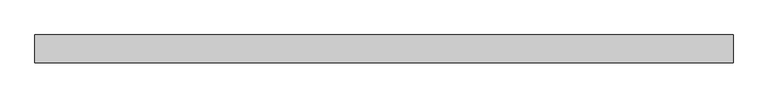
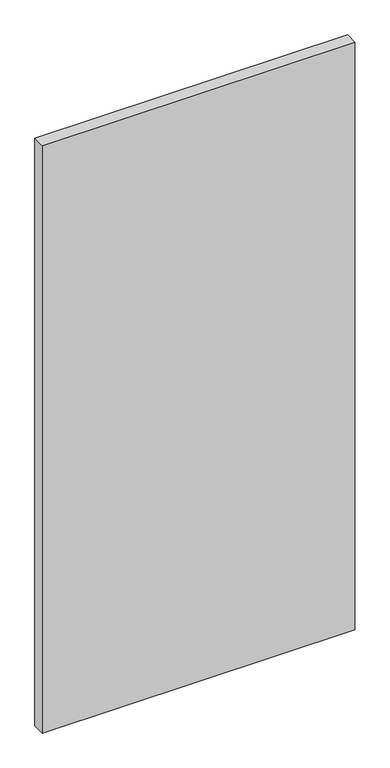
"""IFC4 building model written with IfcOpenShell, lengths in millimetres: plate geometry, Panneau système : Vitre 4cm."""

import ifcopenshell
import ifcopenshell.guid

model = None  # the IFC model being written
_history = None  # IfcOwnerHistory: only IFC2X3 demands one
_inside = {}  # id of a spatial element -> (the spatial element, [elements in it])
_under = {}  # id of a project, library or spatial element -> (it, [spatial elements below it])
_declared = {}  # id of a project -> (the project, [libraries it declares])
_typed = {}  # id of a type object -> (the type object, [elements of that type])
_made_of = {}  # id of a material, layer set ... -> (it, [elements and type objects made of it])


def new_model(schema):
    """Start an empty IFC model of exactly this schema.

    Asked for "IFC4X3", IfcOpenShell would pick the latest addendum, in which some entities
    have other attributes; the version numbers below select the first issue.
    IFC2X3 requires an IfcOwnerHistory on every rooted entity: one is made here for all.
    """
    global model, _history
    if schema == "IFC4X3":
        model = ifcopenshell.file(schema_version=(4, 3, 0, 0))
    else:
        model = ifcopenshell.file(schema=schema)
    _inside.clear()
    _under.clear()
    _declared.clear()
    _typed.clear()
    _made_of.clear()
    _history = None
    if model.schema == "IFC2X3":
        org = make("IfcOrganization", Name="unknown")
        user = make(
            "IfcPersonAndOrganization",
            ThePerson=make("IfcPerson", FamilyName="unknown"),
            TheOrganization=org,
        )
        app = make(
            "IfcApplication",
            ApplicationDeveloper=org,
            Version="unknown",
            ApplicationFullName="unknown",
            ApplicationIdentifier="unknown",
        )
        _history = make(
            "IfcOwnerHistory",
            OwningUser=user,
            OwningApplication=app,
            ChangeAction="ADDED",
            CreationDate=0,
        )
    return model


def make(cls, **values):
    """One entity of the class cls with the attributes given. An attribute that is None is left unset."""
    return model.create_entity(
        cls, **{name: value for name, value in values.items() if value is not None}
    )


def rooted(cls, **values):
    """An entity with a GlobalId (a new one), such as an element, a storey or a relation."""
    return make(cls, GlobalId=ifcopenshell.guid.new(), OwnerHistory=_history, **values)


def si_unit(unit_type, name, prefix=None):
    """IfcSIUnit, for example si_unit("LENGTHUNIT", "METRE", prefix="MILLI")."""
    return make("IfcSIUnit", UnitType=unit_type, Prefix=prefix, Name=name)


def assignment(units):
    """IfcUnitAssignment: the units of a project."""
    return None if units is None else make("IfcUnitAssignment", Units=units)


def point(xyz):
    """IfcCartesianPoint."""
    return None if xyz is None else make("IfcCartesianPoint", Coordinates=xyz)


def direction(xyz):
    """IfcDirection."""
    return None if xyz is None else make("IfcDirection", DirectionRatios=xyz)


def frame(location, z_axis=None, x_axis=None):
    """IfcAxis2Placement3D, a coordinate frame: its origin and axes. An axis left out is left unset."""
    return make(
        "IfcAxis2Placement3D",
        Location=point(location),
        Axis=direction(z_axis),
        RefDirection=direction(x_axis),
    )


def origin():
    """The frame at (0, 0, 0) with its axes left unset."""
    return frame((0.0, 0.0, 0.0))


def origin_with_axes():
    """The frame at (0, 0, 0) with the z axis (0, 0, 1) and the x axis (1, 0, 0) written out."""
    return frame((0.0, 0.0, 0.0), z_axis=(0.0, 0.0, 1.0), x_axis=(1.0, 0.0, 0.0))


def place(relative_to, where):
    """IfcLocalPlacement: puts the frame where relative to a parent placement (None: the world)."""
    return make(
        "IfcLocalPlacement", PlacementRelTo=relative_to, RelativePlacement=where
    )


def context(
    kind, dimensions, precision=None, world=None, true_north=None, identifier=None
):
    """IfcGeometricRepresentationContext, for example the 3D "Model" context."""
    return make(
        "IfcGeometricRepresentationContext",
        ContextIdentifier=identifier,
        ContextType=kind,
        CoordinateSpaceDimension=dimensions,
        Precision=precision,
        WorldCoordinateSystem=world,
        TrueNorth=true_north,
    )


def project(units=None, contexts=None):
    """IfcProject with its units and contexts."""
    return rooted(
        "IfcProject",
        Name="project",
        RepresentationContexts=contexts,
        UnitsInContext=assignment(units),
    )


def spatial(cls, under=None, at=None, **own):
    """A site, building, storey or space (cls), placed at a placement, below another one or the project."""
    s = rooted(cls, ObjectPlacement=at, **own)
    if under is not None:
        _under.setdefault(under.id(), (under, []))[1].append(s)
    return s


def polyline(points):
    """IfcPolyline through the points."""
    return make("IfcPolyline", Points=[point(p) for p in points])


def outline(outer, holes=None, kind="AREA"):
    """IfcArbitraryClosedProfileDef: a profile drawn as a closed curve; with holes, ...WithVoids."""
    if holes is None:
        return make("IfcArbitraryClosedProfileDef", ProfileType=kind, OuterCurve=outer)
    return make(
        "IfcArbitraryProfileDefWithVoids",
        ProfileType=kind,
        OuterCurve=outer,
        InnerCurves=holes,
    )


def extrude(swept, where, along, depth):
    """IfcExtrudedAreaSolid: the profile swept, set in the frame where, extruded along a direction by depth."""
    return make(
        "IfcExtrudedAreaSolid",
        SweptArea=swept,
        Position=where,
        ExtrudedDirection=direction(along),
        Depth=depth,
    )


def shape(context_of_items, identifier, shape_type, items):
    """IfcShapeRepresentation: the items that make up one representation, for example the "Body"."""
    return make(
        "IfcShapeRepresentation",
        ContextOfItems=context_of_items,
        RepresentationIdentifier=identifier,
        RepresentationType=shape_type,
        Items=items,
    )


def source(mapping_origin, context_of_items, identifier, shape_type, items):
    """IfcRepresentationMap: a shape defined once, which mapped items show again and again."""
    return make(
        "IfcRepresentationMap",
        MappingOrigin=mapping_origin,
        MappedRepresentation=shape(context_of_items, identifier, shape_type, items),
    )


def transform(
    local_origin,
    x_axis=None,
    y_axis=None,
    z_axis=None,
    scale=None,
    scale2=None,
    scale3=None,
    uniform=True,
):
    """IfcCartesianTransformationOperator3D, or its non-uniform kind. x_axis, y_axis, z_axis: its Axis1, 2, 3."""
    if uniform:
        return make(
            "IfcCartesianTransformationOperator3D",
            Axis1=direction(x_axis),
            Axis2=direction(y_axis),
            LocalOrigin=point(local_origin),
            Scale=scale,
            Axis3=direction(z_axis),
        )
    return make(
        "IfcCartesianTransformationOperator3DnonUniform",
        Axis1=direction(x_axis),
        Axis2=direction(y_axis),
        LocalOrigin=point(local_origin),
        Scale=scale,
        Axis3=direction(z_axis),
        Scale2=scale2,
        Scale3=scale3,
    )


def mapped(mapping_source, mapping_target):
    """IfcMappedItem: shows the shape of a source again, moved by a transform."""
    return make(
        "IfcMappedItem", MappingSource=mapping_source, MappingTarget=mapping_target
    )


def made_of(thing, what):
    """Note that an element or type object is made of a material, layer set ...; save() writes the relation."""
    if what is not None:
        _made_of.setdefault(what.id(), (what, []))[1].append(thing)
    return thing


def element(
    cls,
    number,
    at=None,
    inside=None,
    cuts=None,
    type_object=None,
    material=None,
    context=None,
    identifier="Body",
    shape_type=None,
    held_by="IfcProductDefinitionShape",
    body=None,
    shapes=None,
    **own,
):
    """One element of the class cls, such as IfcWall. Its Tag is "e" and its number.

    at: its placement. inside: the storey or other place that contains it. cuts: it is an
    opening in that element (IfcRelVoidsElement). A single representation is given by context,
    identifier, shape_type and body (its items); several are given by shapes. held_by: the class
    of the entity that holds the representations. save() writes the other relations.
    """
    e = rooted(cls, Tag="e%d" % number, ObjectPlacement=at, **own)
    if body is not None:
        shapes = [shape(context, identifier, shape_type, body)]
    if shapes is not None:
        e.Representation = make(held_by, Representations=shapes)
    if inside is not None:
        _inside.setdefault(inside.id(), (inside, []))[1].append(e)
    if cuts is not None:
        rooted(
            "IfcRelVoidsElement", RelatingBuildingElement=cuts, RelatedOpeningElement=e
        )
    if type_object is not None:
        _typed.setdefault(type_object.id(), (type_object, []))[1].append(e)
    return made_of(e, material)


def aggregate(whole, parts):
    """IfcRelAggregates: a whole, such as a stair, and the parts it consists of."""
    return rooted("IfcRelAggregates", RelatingObject=whole, RelatedObjects=parts)


def save(model, path):
    """Write the relations noted so far, then the file.

    IfcRelAggregates (storeys below a building ...), IfcRelContainedInSpatialStructure (elements
    in a storey), IfcRelDefinesByType, IfcRelAssociatesMaterial and IfcRelDeclares: one each for
    every whole, place, type object, material and project.
    """
    for whole, parts in _under.values():
        aggregate(whole, parts)
    for where, things in _inside.values():
        rooted(
            "IfcRelContainedInSpatialStructure",
            RelatedElements=things,
            RelatingStructure=where,
        )
    for kind, things in _typed.values():
        rooted("IfcRelDefinesByType", RelatedObjects=things, RelatingType=kind)
    for what, things in _made_of.values():
        rooted("IfcRelAssociatesMaterial", RelatedObjects=things, RelatingMaterial=what)
    for by, libraries in _declared.values():
        rooted("IfcRelDeclares", RelatingContext=by, RelatedDefinitions=libraries)
    model.write(path)


def plate_b4ca5b7c(model_context):
    return source(origin(), model_context, "Body", "SweptSolid", [
        extrude(outline(polyline([(503.4861387, -20.0), (-503.4861387, -20.0), (-503.4861387, 20.0), (503.4861387, 20.0), (503.4861387, -20.0)])), origin_with_axes(), (0.0, 0.0, 1.0), 2000.0),
    ])


if __name__ == "__main__":
    model = new_model("IFC4")
    model_context = context("Model", 3, world=origin())
    ifc_project = project(units=[si_unit("LENGTHUNIT", "METRE", prefix="MILLI")], contexts=[model_context])
    site = spatial("IfcSite", under=ifc_project)
    building = spatial("IfcBuilding", under=site)
    placement = place(None, origin())
    plate_shape = plate_b4ca5b7c(model_context)
    element("IfcPlate", 1, ObjectType="Panneau système : Vitre 4cm", at=placement, inside=building, context=model_context, shape_type="MappedRepresentation", body=[
        mapped(plate_shape, transform((0.0, 0.0, 0.0), x_axis=(1.0, 0.0, 0.0), y_axis=(0.0, 1.0, 0.0), z_axis=(0.0, 0.0, 1.0))),
    ])
    save(model, "model.ifc")
